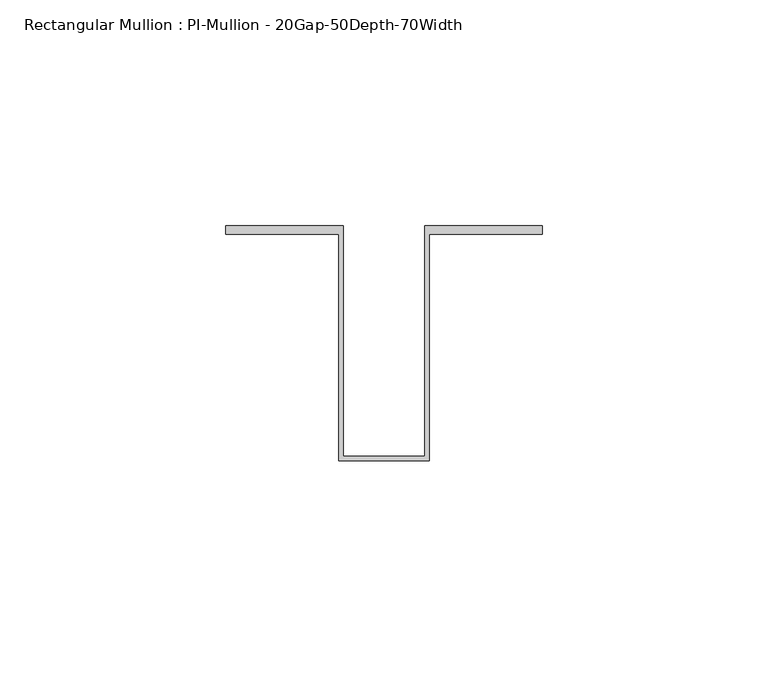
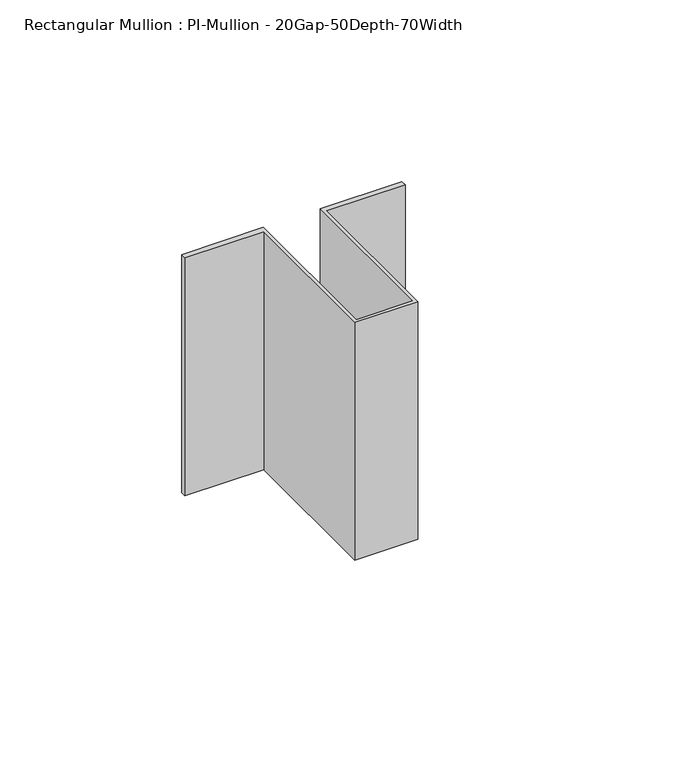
"""IFC4 building model written with IfcOpenShell, lengths in millimetres: member geometry, Rectangular Mullion : PI-Mullion - 20Gap-50Depth-70Width."""

from ifc_helpers import new_model, si_unit, frame, origin, place, context, project, spatial, polyline, outline, extrude, source, transform, mapped, element, save


def rectangular_mullion_pi_mullion_20gap_50depth_70width_142a5764(model_context):
    return source(origin(), model_context, "Body", "SweptSolid", [
        extrude(outline(polyline([(10.0, 0.2), (10.0, -50.0), (-10.0, -50.0), (-10.0, 0.2), (-35.0, 0.2), (-35.0, 2.0), (-9.0, 2.0), (-9.0, -49.0), (9.0, -49.0), (9.0, 2.0), (35.0, 2.0), (35.0, 0.2), (10.0, 0.2)])), frame((0.0, 0.0, -79.9704237), z_axis=(0.0, 0.0, 1.0), x_axis=(1.0, 0.0, 0.0)), (0.0, 0.0, 1.0), 79.9704237),
    ])


if __name__ == "__main__":
    model = new_model("IFC4")
    model_context = context("Model", 3, world=origin())
    ifc_project = project(units=[si_unit("LENGTHUNIT", "METRE", prefix="MILLI")], contexts=[model_context])
    site = spatial("IfcSite", under=ifc_project)
    building = spatial("IfcBuilding", under=site)
    placement = place(None, origin())
    rectangular_mullion_pi_mullion_20gap_50depth_70width_shape = rectangular_mullion_pi_mullion_20gap_50depth_70width_142a5764(model_context)
    element("IfcMember", 1, ObjectType="Rectangular Mullion : PI-Mullion - 20Gap-50Depth-70Width", at=placement, inside=building, context=model_context, shape_type="MappedRepresentation", body=[
        mapped(rectangular_mullion_pi_mullion_20gap_50depth_70width_shape, transform((0.0, 0.0, 0.0), x_axis=(1.0, 0.0, 0.0), y_axis=(0.0, 1.0, 0.0), z_axis=(0.0, 0.0, 1.0))),
    ])
    save(model, "model.ifc")
